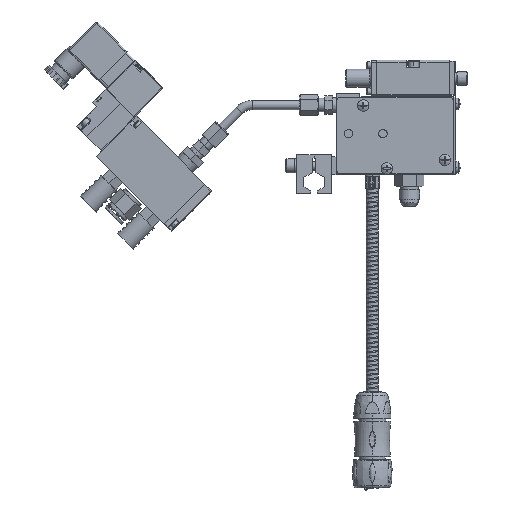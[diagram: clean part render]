
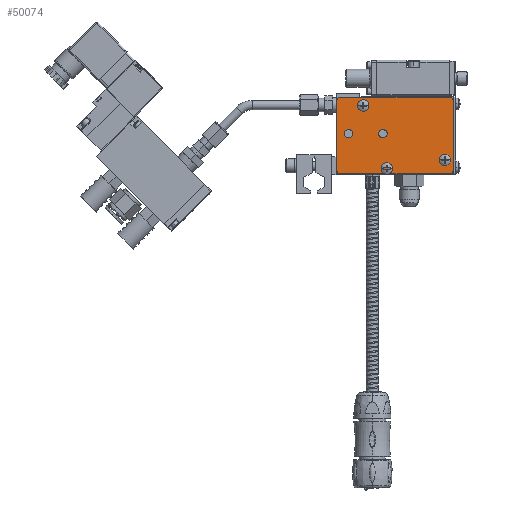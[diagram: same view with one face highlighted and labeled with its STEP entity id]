
A CAD part, left-side view. The second image highlights one B-rep face of the part: STEP entity #50074.
In plain terms, the highlighted planar face has unit normal (-1, 0, 0).
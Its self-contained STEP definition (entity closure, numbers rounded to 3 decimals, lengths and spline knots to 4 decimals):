
#49915=CARTESIAN_POINT('',(-0.673,1.525,2.06));
#49916=DIRECTION('',(-1.,0.,0.));
#49917=DIRECTION('',(0.,0.,1.));
#49918=AXIS2_PLACEMENT_3D('',#49915,#49916,#49917);
#49920=DIRECTION('',(0.,-1.,0.));
#49921=VECTOR('',#49920,3.05);
#49922=CARTESIAN_POINT('',(-0.673,1.525,2.135));
#49923=LINE('',#49922,#49921);
#49924=CARTESIAN_POINT('',(-0.673,-1.525,2.06));
#49925=DIRECTION('',(-1.,0.,0.));
#49926=DIRECTION('',(0.,-1.,0.));
#49927=AXIS2_PLACEMENT_3D('',#49924,#49925,#49926);
#49929=DIRECTION('',(0.,0.,-1.));
#49930=VECTOR('',#49929,1.96);
#49931=CARTESIAN_POINT('',(-0.673,-1.6,2.06));
#49932=LINE('',#49931,#49930);
#49933=CARTESIAN_POINT('',(-0.673,-1.525,0.1));
#49934=DIRECTION('',(-1.,0.,0.));
#49935=DIRECTION('',(0.,0.,-1.));
#49936=AXIS2_PLACEMENT_3D('',#49933,#49934,#49935);
#49938=DIRECTION('',(0.,1.,0.));
#49939=VECTOR('',#49938,3.05);
#49940=CARTESIAN_POINT('',(-0.673,-1.525,0.025));
#49941=LINE('',#49940,#49939);
#49942=CARTESIAN_POINT('',(-0.673,1.525,0.1));
#49943=DIRECTION('',(-1.,0.,0.));
#49944=DIRECTION('',(0.,1.,0.));
#49945=AXIS2_PLACEMENT_3D('',#49942,#49943,#49944);
#49947=DIRECTION('',(0.,0.,1.));
#49948=VECTOR('',#49947,1.96);
#49949=CARTESIAN_POINT('',(-0.673,1.6,0.1));
#49950=LINE('',#49949,#49948);
#50023=CARTESIAN_POINT('',(-0.673,1.525,2.135));
#50024=VERTEX_POINT('',#50023);
#50025=CARTESIAN_POINT('',(-0.673,1.6,2.06));
#50026=VERTEX_POINT('',#50025);
#50031=CARTESIAN_POINT('',(-0.673,1.6,0.1));
#50032=VERTEX_POINT('',#50031);
#50033=CARTESIAN_POINT('',(-0.673,1.525,0.025));
#50034=VERTEX_POINT('',#50033);
#50039=CARTESIAN_POINT('',(-0.673,-1.525,0.025));
#50040=VERTEX_POINT('',#50039);
#50041=CARTESIAN_POINT('',(-0.673,-1.6,0.1));
#50042=VERTEX_POINT('',#50041);
#50047=CARTESIAN_POINT('',(-0.673,-1.6,2.06));
#50048=VERTEX_POINT('',#50047);
#50049=CARTESIAN_POINT('',(-0.673,-1.525,2.135));
#50050=VERTEX_POINT('',#50049);
#50051=CARTESIAN_POINT('',(-0.673,0.,1.08));
#50052=DIRECTION('',(1.,0.,0.));
#50053=DIRECTION('',(0.,0.,-1.));
#50054=AXIS2_PLACEMENT_3D('',#50051,#50052,#50053);
#50055=PLANE('',#50054);
#50057=ORIENTED_EDGE('',*,*,#50056,.F.);
#50059=ORIENTED_EDGE('',*,*,#50058,.T.);
#50061=ORIENTED_EDGE('',*,*,#50060,.F.);
#50063=ORIENTED_EDGE('',*,*,#50062,.T.);
#50065=ORIENTED_EDGE('',*,*,#50064,.F.);
#50067=ORIENTED_EDGE('',*,*,#50066,.T.);
#50069=ORIENTED_EDGE('',*,*,#50068,.F.);
#50071=ORIENTED_EDGE('',*,*,#50070,.T.);
#50072=EDGE_LOOP('',(#50057,#50059,#50061,#50063,#50065,#50067,#50069,#50071));
#50073=FACE_OUTER_BOUND('',#50072,.F.);
#50074=ADVANCED_FACE('',(#50073),#50055,.F.);
#49919=CIRCLE('',#49918,0.075);
#49928=CIRCLE('',#49927,0.075);
#49937=CIRCLE('',#49936,0.075);
#49946=CIRCLE('',#49945,0.075);
#50056=EDGE_CURVE('',#50024,#50026,#49919,.T.);
#50058=EDGE_CURVE('',#50024,#50050,#49923,.T.);
#50060=EDGE_CURVE('',#50048,#50050,#49928,.T.);
#50062=EDGE_CURVE('',#50048,#50042,#49932,.T.);
#50064=EDGE_CURVE('',#50040,#50042,#49937,.T.);
#50066=EDGE_CURVE('',#50040,#50034,#49941,.T.);
#50068=EDGE_CURVE('',#50032,#50034,#49946,.T.);
#50070=EDGE_CURVE('',#50032,#50026,#49950,.T.);
